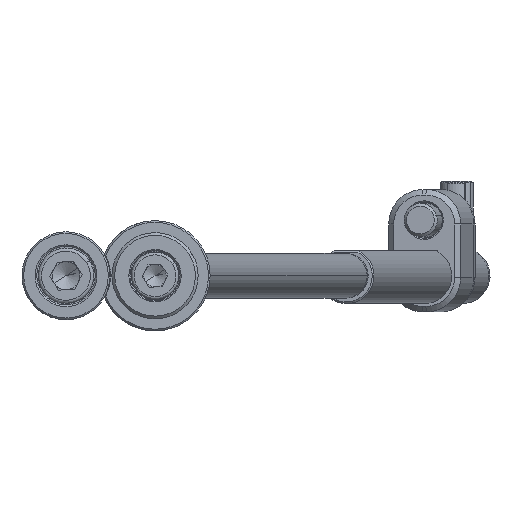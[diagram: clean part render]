
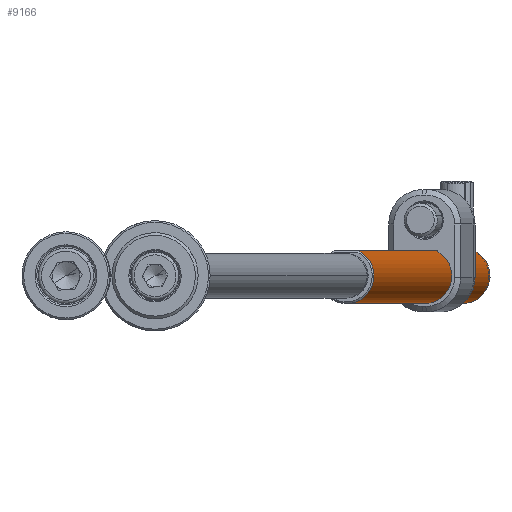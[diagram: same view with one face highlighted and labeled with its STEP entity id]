
A CAD part, front view. The second image highlights one B-rep face of the part: STEP entity #9166.
In plain terms, the highlighted cylindrical face has radius 5 mm (diameter 10 mm), a partial arc.
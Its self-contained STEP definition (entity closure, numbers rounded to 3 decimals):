
#689 = CARTESIAN_POINT ( 'NONE',  ( 4.376, -2.422, 8.22 ) ) ;
#988 = CYLINDRICAL_SURFACE ( 'NONE', #8882, 5. ) ;
#1189 = ORIENTED_EDGE ( 'NONE', *, *, #5014, .F. ) ;
#1599 = CARTESIAN_POINT ( 'NONE',  ( 4.376, -2.421, 11.781 ) ) ;
#1614 = CARTESIAN_POINT ( 'NONE',  ( 4.069, -2.906, 10.771 ) ) ;
#1687 = CARTESIAN_POINT ( 'NONE',  ( 4.258, -2.623, 8.532 ) ) ;
#1859 = EDGE_CURVE ( 'NONE', #11525, #4069, #8343, .T. ) ;
#2074 = DIRECTION ( 'NONE',  ( -1., 0., 0. ) ) ;
#2102 = VERTEX_POINT ( 'NONE', #12385 ) ;
#2152 = ORIENTED_EDGE ( 'NONE', *, *, #13346, .T. ) ;
#2273 = CARTESIAN_POINT ( 'NONE',  ( 4.5, -2.179, 200. ) ) ;
#2481 = CARTESIAN_POINT ( 'NONE',  ( 4.5, -2.179, 0.3 ) ) ;
#3135 = CARTESIAN_POINT ( 'NONE',  ( 0., 0., 200. ) ) ;
#3262 = EDGE_CURVE ( 'NONE', #13023, #11278, #11957, .T. ) ;
#3323 = DIRECTION ( 'NONE',  ( 0., 0., -1. ) ) ;
#3925 = CARTESIAN_POINT ( 'NONE',  ( 4.202, -2.711, 8.701 ) ) ;
#4069 = VERTEX_POINT ( 'NONE', #2481 ) ;
#4121 = CIRCLE ( 'NONE', #13251, 5. ) ;
#4151 = DIRECTION ( 'NONE',  ( 0., 0., -1. ) ) ;
#4181 = VERTEX_POINT ( 'NONE', #4428 ) ;
#4190 = ORIENTED_EDGE ( 'NONE', *, *, #9492, .T. ) ;
#4388 = FACE_OUTER_BOUND ( 'NONE', #13623, .T. ) ;
#4428 = CARTESIAN_POINT ( 'NONE',  ( -5., 0., 0.3 ) ) ;
#4677 = CARTESIAN_POINT ( 'NONE',  ( 4.5, -2.179, 199.7 ) ) ;
#4914 = DIRECTION ( 'NONE',  ( 1., 0., 0. ) ) ;
#5014 = EDGE_CURVE ( 'NONE', #11278, #11525, #11917, .T. ) ;
#5018 = CARTESIAN_POINT ( 'NONE',  ( 4.5, -2.179, 12.062 ) ) ;
#5061 = LINE ( 'NONE', #9436, #6168 ) ;
#5528 = DIRECTION ( 'NONE',  ( 1., 0., 0. ) ) ;
#5917 = ORIENTED_EDGE ( 'NONE', *, *, #9052, .T. ) ;
#6151 = CARTESIAN_POINT ( 'NONE',  ( 4.068, -2.908, 9.236 ) ) ;
#6168 = VECTOR ( 'NONE', #13835, 1000. ) ;
#6279 = CARTESIAN_POINT ( 'NONE',  ( 4.015, -2.98, 10.396 ) ) ;
#6890 = CARTESIAN_POINT ( 'NONE',  ( 4.5, -2.179, 7.938 ) ) ;
#7059 = CARTESIAN_POINT ( 'NONE',  ( 4.438, -2.307, 11.926 ) ) ;
#7117 = DIRECTION ( 'NONE',  ( 0., 0., 1. ) ) ;
#7226 = CARTESIAN_POINT ( 'NONE',  ( 4., -3., 10.198 ) ) ;
#7489 = VECTOR ( 'NONE', #4151, 1000. ) ;
#8299 = CARTESIAN_POINT ( 'NONE',  ( 0., 0., 0.3 ) ) ;
#8343 = LINE ( 'NONE', #12720, #7489 ) ;
#8487 = CARTESIAN_POINT ( 'NONE',  ( 4.5, -2.179, 7.938 ) ) ;
#8812 = CARTESIAN_POINT ( 'NONE',  ( 4.5, -2.179, 12.062 ) ) ;
#8882 = AXIS2_PLACEMENT_3D ( 'NONE', #3135, #11871, #2074 ) ;
#9052 = EDGE_CURVE ( 'NONE', #2102, #4181, #5061, .T. ) ;
#9133 = AXIS2_PLACEMENT_3D ( 'NONE', #12140, #3323, #5528 ) ;
#9166 = ADVANCED_FACE ( 'NONE', ( #4388 ), #988, .T. ) ;
#9344 = CARTESIAN_POINT ( 'NONE',  ( 4.108, -2.851, 10.952 ) ) ;
#9436 = CARTESIAN_POINT ( 'NONE',  ( -5., 0., 200. ) ) ;
#9492 = EDGE_CURVE ( 'NONE', #4181, #4069, #4121, .T. ) ;
#9553 = CARTESIAN_POINT ( 'NONE',  ( 4.107, -2.852, 9.051 ) ) ;
#10346 = CARTESIAN_POINT ( 'NONE',  ( 4.259, -2.621, 11.47 ) ) ;
#10388 = ORIENTED_EDGE ( 'NONE', *, *, #1859, .F. ) ;
#10500 = CARTESIAN_POINT ( 'NONE',  ( 4.438, -2.308, 8.074 ) ) ;
#11173 = VECTOR ( 'NONE', #12065, 1000. ) ;
#11278 = VERTEX_POINT ( 'NONE', #8812 ) ;
#11439 = CARTESIAN_POINT ( 'NONE',  ( 4., -3., 9.809 ) ) ;
#11525 = VERTEX_POINT ( 'NONE', #6890 ) ;
#11871 = DIRECTION ( 'NONE',  ( 0., 0., -1. ) ) ;
#11917 = B_SPLINE_CURVE_WITH_KNOTS ( 'NONE', 3,
 ( #5018, #7059, #1599, #10346, #13817, #9344, #1614, #6279, #7226, #11439, #13760, #6151, #9553, #3925, #1687, #689, #10500, #8487 ),
 .UNSPECIFIED., .F., .F.,
 ( 4, 2, 2, 2, 2, 2, 2, 2, 4 ),
 ( 0., 0.001, 0.001, 0.002, 0.002, 0.003, 0.003, 0.004, 0.005 ),
 .UNSPECIFIED. ) ;
#11957 = LINE ( 'NONE', #2273, #11173 ) ;
#12065 = DIRECTION ( 'NONE',  ( 0., 0., -1. ) ) ;
#12140 = CARTESIAN_POINT ( 'NONE',  ( 0., 0., 199.7 ) ) ;
#12385 = CARTESIAN_POINT ( 'NONE',  ( -5., 0., 199.7 ) ) ;
#12720 = CARTESIAN_POINT ( 'NONE',  ( 4.5, -2.179, 200. ) ) ;
#12991 = ORIENTED_EDGE ( 'NONE', *, *, #3262, .F. ) ;
#13023 = VERTEX_POINT ( 'NONE', #4677 ) ;
#13035 = CIRCLE ( 'NONE', #9133, 5. ) ;
#13251 = AXIS2_PLACEMENT_3D ( 'NONE', #8299, #7117, #4914 ) ;
#13346 = EDGE_CURVE ( 'NONE', #13023, #2102, #13035, .T. ) ;
#13623 = EDGE_LOOP ( 'NONE', ( #2152, #5917, #4190, #10388, #1189, #12991 ) ) ;
#13760 = CARTESIAN_POINT ( 'NONE',  ( 4.014, -2.982, 9.617 ) ) ;
#13817 = CARTESIAN_POINT ( 'NONE',  ( 4.203, -2.709, 11.303 ) ) ;
#13835 = DIRECTION ( 'NONE',  ( 0., 0., -1. ) ) ;
